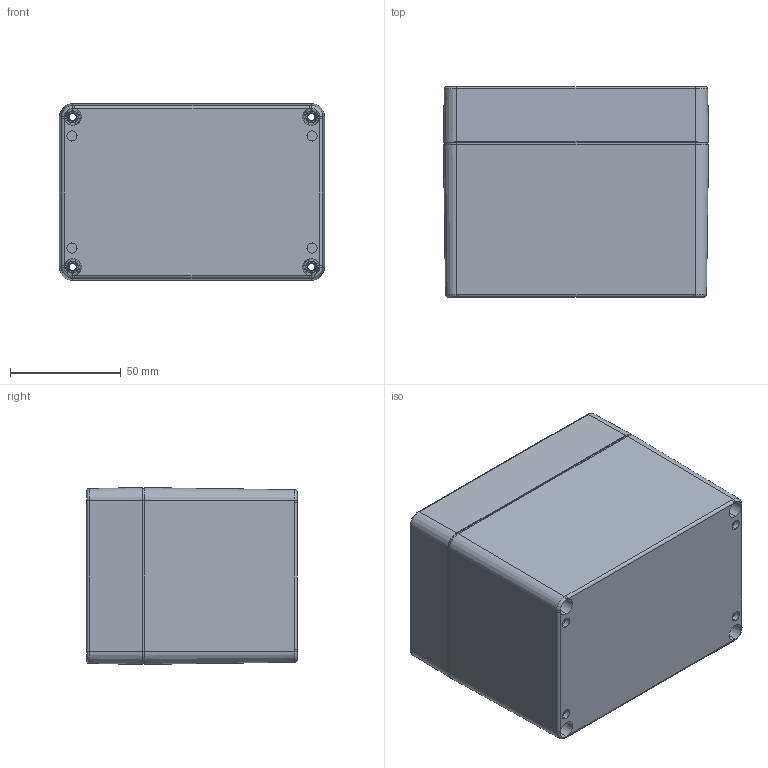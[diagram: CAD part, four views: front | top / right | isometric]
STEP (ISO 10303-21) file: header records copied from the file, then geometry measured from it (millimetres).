
FILE_DESCRIPTION (( 'STEP AP203' ), '1' );
FILE_NAME ('PE217.STEP', '2020-04-01T11:07:37', ( '' ), ( '' ), 'SwSTEP 2.0', 'SolidWorks 2020', '' );
FILE_SCHEMA (( 'CONFIG_CONTROL_DESIGN' ));
Length unit declared in the file: millimetre
Products named in the file (4): PE217
Assembly tree (3 placements, depth 2):
  PE217
    PE217
    PE217
    PE217
Bounding box: 120 x 95.1 x 80 mm (x, y, z)
Volume: 199545.8 mm3; surface area: 146841.6 mm2
Topology: 11 solids, 11 shells, 1380 faces, 3633 edges, 2342 vertices
Faces by surface type: bspline 464, cylinder 364, plane 289, cone 255, torus 8
Entity records: 48445 total; most frequent: CARTESIAN_POINT 16537, ORIENTED_EDGE 7234, DIRECTION 5723, EDGE_CURVE 3617, VERTEX_POINT 2342, AXIS2_PLACEMENT_3D 2128, EDGE_LOOP 1523, LINE 1467
